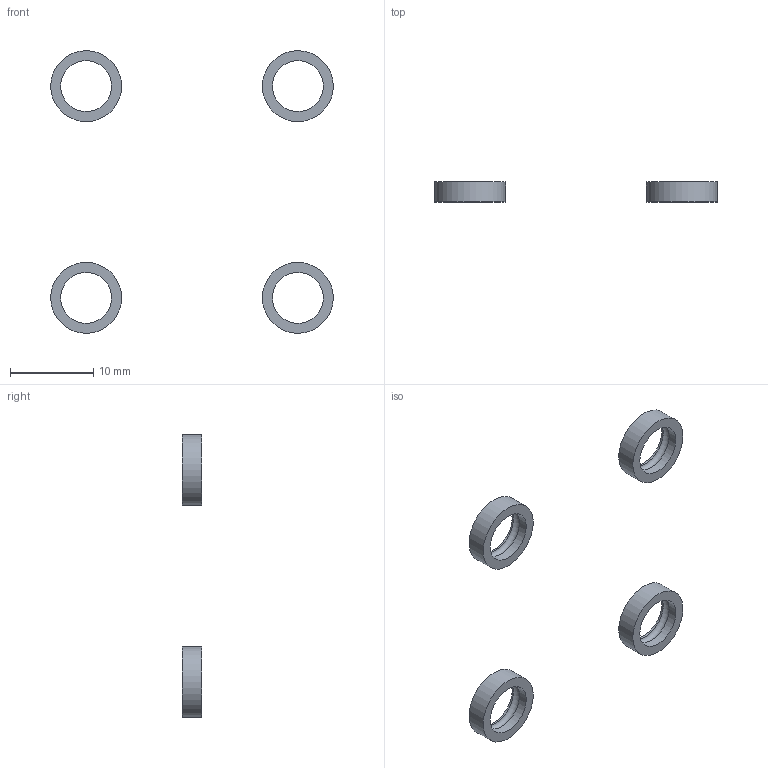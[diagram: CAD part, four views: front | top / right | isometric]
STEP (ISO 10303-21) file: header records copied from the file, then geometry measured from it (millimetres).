
FILE_DESCRIPTION(/* description */ (''),/* implementation_level */ '2;1');
FILE_NAME(/* name */ '/Users/lara/Documents/eTextileCamp/swatch/final/etextile_swatch_socket_flex.step',/* time_stamp */ '2017-07-14T02:27:34+02:00',/* author */ (''),/* organization */ (''),/* preprocessor_version */ 'ST-DEVELOPER v16.13',/* originating_system */ 'Autodesk Translation Framework v6.1.1.50',/* authorisation */ '');
FILE_SCHEMA (('AUTOMOTIVE_DESIGN { 1 0 10303 214 3 1 1 }'));
Length unit declared in the file: millimetre
Products named in the file (2): etextile socket v2; Component2
Assembly tree (1 placements, depth 2):
  etextile socket v2
    Component2
Bounding box: 33.9 x 2.4 x 33.9 mm (x, y, z)
Volume: 235.2 mm3; surface area: 706.5 mm2
Topology: 4 solids, 4 shells, 24 faces, 40 edges, 24 vertices
Faces by surface type: cylinder 12, plane 8, torus 4
Full cylindrical faces by diameter (mm): 6.109 x8, 8.504 x4
Entity records: 539 total; most frequent: DIRECTION 102, CARTESIAN_POINT 75, AXIS2_PLACEMENT_3D 51, EDGE_LOOP 48, ORIENTED_EDGE 48, FACE_BOUND 24, FACE_OUTER_BOUND 24, CIRCLE 24
